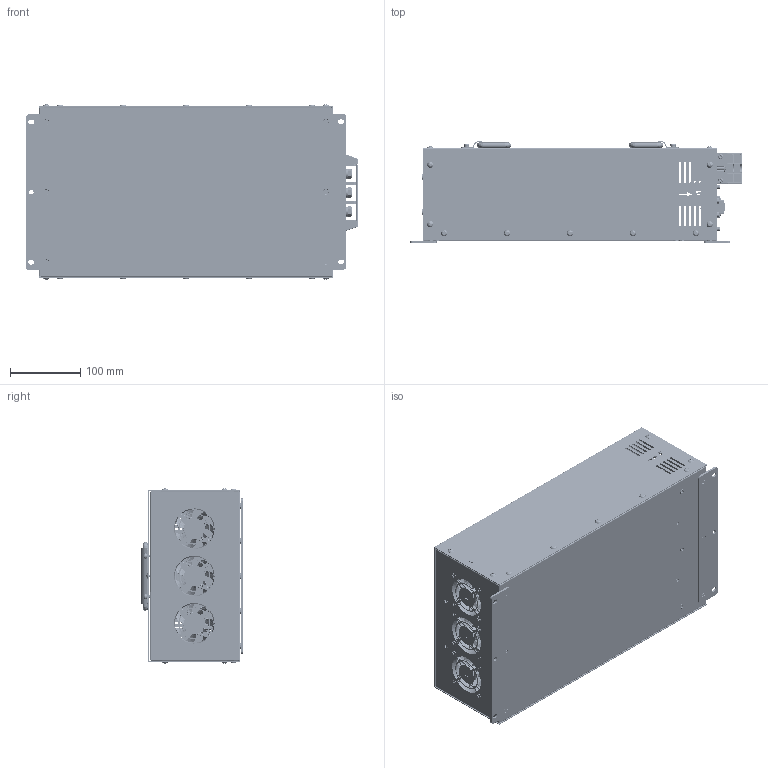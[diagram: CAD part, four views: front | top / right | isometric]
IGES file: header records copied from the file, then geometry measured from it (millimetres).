
Global section: file name: VX3COM_OLED_HANDLE2_2026.06.11; native system: Autodesk Inventor 2026; preprocessor: unknown; author: Administrator; date: 20260612.091837; units: millimetre
Bounding box: 473.7 x 145.5 x 250.09 mm (x, y, z)
Volume: 777424.2 mm3; surface area: 1051911 mm2
Topology: 199 solids, 202 shells, 10345 faces, 27950 edges, 18554 vertices
Faces by surface type: bspline 10345
